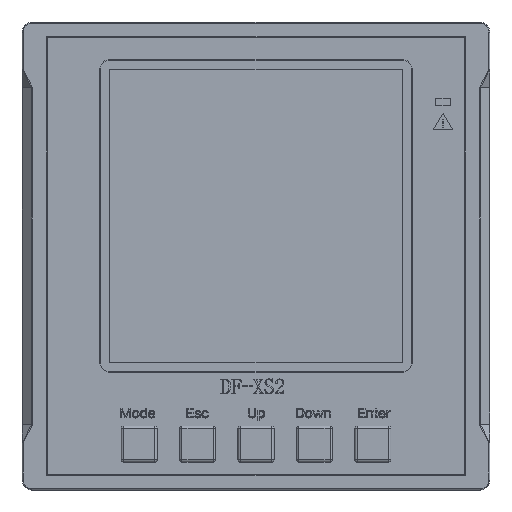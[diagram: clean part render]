
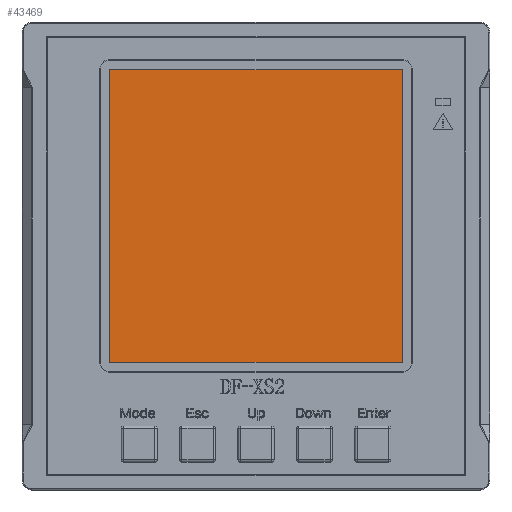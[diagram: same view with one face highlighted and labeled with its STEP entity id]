
A CAD part, top view. The second image highlights one B-rep face of the part: STEP entity #43469.
In plain terms, the highlighted planar face has unit normal (0, 0, 1).
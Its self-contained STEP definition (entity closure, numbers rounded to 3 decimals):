
#7044 = VERTEX_POINT ( 'NONE', #59153 ) ;
#11375 = CARTESIAN_POINT ( 'NONE',  ( 30., 32.25, 0.3 ) ) ;
#13248 = VECTOR ( 'NONE', #36718, 1000. ) ;
#13480 = DIRECTION ( 'NONE',  ( 0., -1., 0. ) ) ;
#24605 = CARTESIAN_POINT ( 'NONE',  ( -30., 32.25, 0.3 ) ) ;
#27620 = DIRECTION ( 'NONE',  ( 0., 0., 1. ) ) ;
#27798 = LINE ( 'NONE', #11375, #109409 ) ;
#29562 = ORIENTED_EDGE ( 'NONE', *, *, #143396, .T. ) ;
#36718 = DIRECTION ( 'NONE',  ( -1., 0., 0. ) ) ;
#43252 = AXIS2_PLACEMENT_3D ( 'NONE', #71793, #27620, #72772 ) ;
#43469 = ADVANCED_FACE ( 'NONE', ( #50841 ), #138732, .T. ) ;
#45391 = CARTESIAN_POINT ( 'NONE',  ( -30., -27.75, 0.3 ) ) ;
#50841 = FACE_OUTER_BOUND ( 'NONE', #112649, .T. ) ;
#53154 = CARTESIAN_POINT ( 'NONE',  ( -30., -27.75, 0.3 ) ) ;
#56743 = ORIENTED_EDGE ( 'NONE', *, *, #72897, .T. ) ;
#59153 = CARTESIAN_POINT ( 'NONE',  ( 30., -27.75, 0.3 ) ) ;
#62813 = ORIENTED_EDGE ( 'NONE', *, *, #67930, .T. ) ;
#64365 = DIRECTION ( 'NONE',  ( 1., 0., 0. ) ) ;
#67930 = EDGE_CURVE ( 'NONE', #134297, #7044, #89703, .T. ) ;
#69771 = CARTESIAN_POINT ( 'NONE',  ( -30., 32.25, 0.3 ) ) ;
#70154 = VERTEX_POINT ( 'NONE', #69771 ) ;
#71793 = CARTESIAN_POINT ( 'NONE',  ( -30., -27.75, 0.3 ) ) ;
#72253 = LINE ( 'NONE', #103152, #13248 ) ;
#72772 = DIRECTION ( 'NONE',  ( 1., 0., 0. ) ) ;
#72897 = EDGE_CURVE ( 'NONE', #70154, #134297, #142483, .T. ) ;
#79748 = DIRECTION ( 'NONE',  ( 0., 1., 0. ) ) ;
#82117 = VERTEX_POINT ( 'NONE', #111851 ) ;
#89703 = LINE ( 'NONE', #53154, #112257 ) ;
#103152 = CARTESIAN_POINT ( 'NONE',  ( -30., 32.25, 0.3 ) ) ;
#109409 = VECTOR ( 'NONE', #79748, 1000. ) ;
#111178 = VECTOR ( 'NONE', #13480, 1000. ) ;
#111851 = CARTESIAN_POINT ( 'NONE',  ( 30., 32.25, 0.3 ) ) ;
#112257 = VECTOR ( 'NONE', #64365, 1000. ) ;
#112649 = EDGE_LOOP ( 'NONE', ( #133351, #29562, #56743, #62813 ) ) ;
#125407 = EDGE_CURVE ( 'NONE', #7044, #82117, #27798, .T. ) ;
#133351 = ORIENTED_EDGE ( 'NONE', *, *, #125407, .T. ) ;
#134297 = VERTEX_POINT ( 'NONE', #45391 ) ;
#138732 = PLANE ( 'NONE',  #43252 ) ;
#142483 = LINE ( 'NONE', #24605, #111178 ) ;
#143396 = EDGE_CURVE ( 'NONE', #82117, #70154, #72253, .T. ) ;
